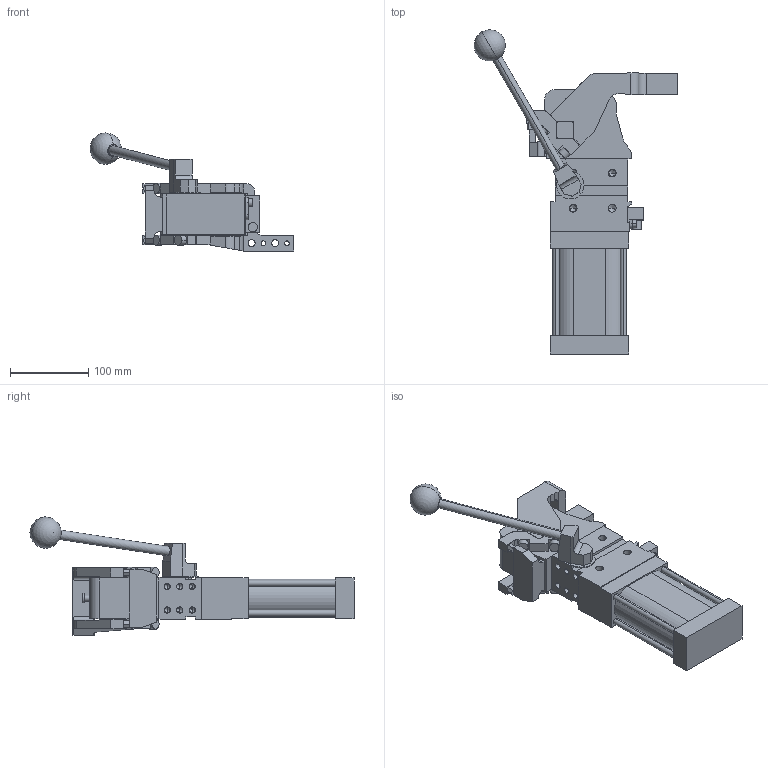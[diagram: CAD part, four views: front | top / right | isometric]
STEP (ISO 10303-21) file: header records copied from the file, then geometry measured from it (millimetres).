
FILE_DESCRIPTION (( 'STEP AP214' ), '1' );
FILE_NAME ('cplm63latv3dsi1g_26.STEP', '2023-01-26T15:08:45', ( '' ), ( '' ), 'SwSTEP 2.0', 'SolidWorks 2022', '' );
FILE_SCHEMA (( 'AUTOMOTIVE_DESIGN' ));
Length unit declared in the file: millimetre
Products named in the file (5): comando_manuale_cplm_63; meccanica_cplm_63_tassello_esterno; cplm63latv3dsi1g_26; leva_v3ds_cpl63t; blocchetto_VEP_0
Assembly tree (4 placements, depth 2):
  cplm63latv3dsi1g_26
    meccanica_cplm_63_tassello_esterno
    blocchetto_VEP_0
    leva_v3ds_cpl63t
    comando_manuale_cplm_63
Bounding box: 260.57 x 414.56 x 151 mm (x, y, z)
Volume: 1930949.9 mm3; surface area: 221154.3 mm2
Topology: 4 solids, 4 shells, 469 faces, 1239 edges, 773 vertices
Faces by surface type: plane 250, cylinder 167, cone 50, sphere 2
Entity records: 15764 total; most frequent: CARTESIAN_POINT 2534, DIRECTION 2493, ORIENTED_EDGE 2376, EDGE_CURVE 1188, AXIS2_PLACEMENT_3D 843, VECTOR 807, LINE 807, VERTEX_POINT 770
